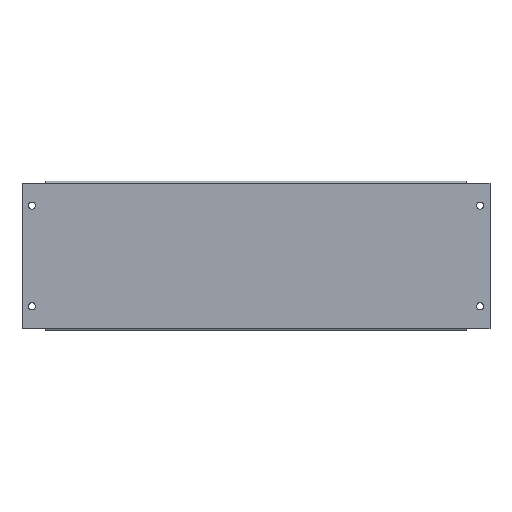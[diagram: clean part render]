
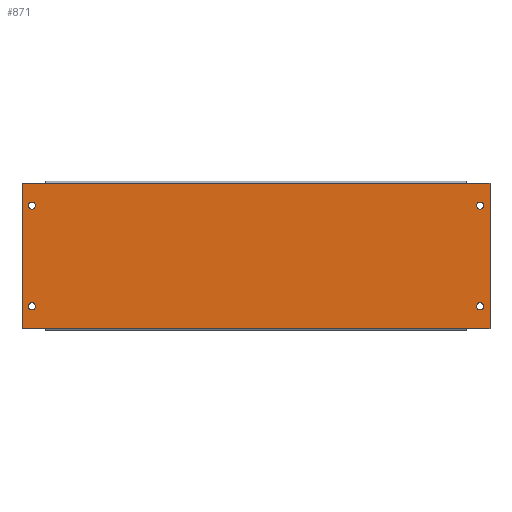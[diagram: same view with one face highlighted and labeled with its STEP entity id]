
A CAD part, top view. The second image highlights one B-rep face of the part: STEP entity #871.
In plain terms, the highlighted planar face has unit normal (0, 0, 1).
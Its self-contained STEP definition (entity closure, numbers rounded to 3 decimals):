
#4 = VECTOR ( 'NONE', #773, 1000. ) ;
#22 = AXIS2_PLACEMENT_3D ( 'NONE', #748, #747, #746 ) ;
#70 = AXIS2_PLACEMENT_3D ( 'NONE', #708, #707, #706 ) ;
#76 = VECTOR ( 'NONE', #690, 1000. ) ;
#81 = VECTOR ( 'NONE', #681, 1000. ) ;
#85 = AXIS2_PLACEMENT_3D ( 'NONE', #659, #658, #657 ) ;
#86 = AXIS2_PLACEMENT_3D ( 'NONE', #662, #661, #660 ) ;
#90 = AXIS2_PLACEMENT_3D ( 'NONE', #637, #615, #614 ) ;
#95 = AXIS2_PLACEMENT_3D ( 'NONE', #643, #642, #641 ) ;
#96 = AXIS2_PLACEMENT_3D ( 'NONE', #640, #639, #638 ) ;
#97 = AXIS2_PLACEMENT_3D ( 'NONE', #613, #609, #608 ) ;
#98 = VECTOR ( 'NONE', #634, 1000. ) ;
#99 = VECTOR ( 'NONE', #631, 1000. ) ;
#100 = VECTOR ( 'NONE', #628, 1000. ) ;
#101 = VECTOR ( 'NONE', #625, 1000. ) ;
#102 = VECTOR ( 'NONE', #622, 1000. ) ;
#139 = CARTESIAN_POINT ( 'NONE',  ( -232.5, -74.5, 1.2 ) ) ;
#147 = PLANE ( 'NONE',  #1042 ) ;
#157 = DIRECTION ( 'NONE',  ( 0., 0., 1. ) ) ;
#160 = DIRECTION ( 'NONE',  ( 1., 0., 0. ) ) ;
#322 = VERTEX_POINT ( 'NONE', #458 ) ;
#326 = VERTEX_POINT ( 'NONE', #459 ) ;
#328 = VERTEX_POINT ( 'NONE', #516 ) ;
#329 = VERTEX_POINT ( 'NONE', #475 ) ;
#337 = VERTEX_POINT ( 'NONE', #446 ) ;
#340 = VERTEX_POINT ( 'NONE', #407 ) ;
#341 = VERTEX_POINT ( 'NONE', #406 ) ;
#342 = VERTEX_POINT ( 'NONE', #400 ) ;
#343 = VERTEX_POINT ( 'NONE', #401 ) ;
#345 = VERTEX_POINT ( 'NONE', #402 ) ;
#346 = VERTEX_POINT ( 'NONE', #403 ) ;
#349 = VERTEX_POINT ( 'NONE', #412 ) ;
#350 = VERTEX_POINT ( 'NONE', #413 ) ;
#351 = VERTEX_POINT ( 'NONE', #414 ) ;
#353 = VERTEX_POINT ( 'NONE', #416 ) ;
#354 = VERTEX_POINT ( 'NONE', #422 ) ;
#400 = CARTESIAN_POINT ( 'NONE',  ( 226.25, 50., 1.2 ) ) ;
#401 = CARTESIAN_POINT ( 'NONE',  ( -232.5, 72.1, 1.2 ) ) ;
#402 = CARTESIAN_POINT ( 'NONE',  ( 232.5, -72.1, 1.2 ) ) ;
#403 = CARTESIAN_POINT ( 'NONE',  ( -232.5, -72.1, 1.2 ) ) ;
#406 = CARTESIAN_POINT ( 'NONE',  ( -226.25, 50., 1.2 ) ) ;
#407 = CARTESIAN_POINT ( 'NONE',  ( -219.25, 50., 1.2 ) ) ;
#412 = CARTESIAN_POINT ( 'NONE',  ( 232.5, 72.1, 1.2 ) ) ;
#413 = CARTESIAN_POINT ( 'NONE',  ( 209.5, -72.1, 1.2 ) ) ;
#414 = CARTESIAN_POINT ( 'NONE',  ( -209.5, -72.1, 1.2 ) ) ;
#416 = CARTESIAN_POINT ( 'NONE',  ( -209.5, 72.1, 1.2 ) ) ;
#422 = CARTESIAN_POINT ( 'NONE',  ( 209.5, 72.1, 1.2 ) ) ;
#439 = EDGE_LOOP ( 'NONE', ( #479, #505, #535, #540, #545, #547, #542, #472 ) ) ;
#445 = EDGE_LOOP ( 'NONE', ( #484, #477 ) ) ;
#446 = CARTESIAN_POINT ( 'NONE',  ( 219.25, 50., 1.2 ) ) ;
#451 = EDGE_LOOP ( 'NONE', ( #471, #541 ) ) ;
#456 = ORIENTED_EDGE ( 'NONE', *, *, #921, .T. ) ;
#458 = CARTESIAN_POINT ( 'NONE',  ( -226.25, -50., 1.2 ) ) ;
#459 = CARTESIAN_POINT ( 'NONE',  ( -219.25, -50., 1.2 ) ) ;
#471 = ORIENTED_EDGE ( 'NONE', *, *, #962, .F. ) ;
#472 = ORIENTED_EDGE ( 'NONE', *, *, #897, .T. ) ;
#475 = CARTESIAN_POINT ( 'NONE',  ( 226.25, -50., 1.2 ) ) ;
#477 = ORIENTED_EDGE ( 'NONE', *, *, #983, .T. ) ;
#478 = ORIENTED_EDGE ( 'NONE', *, *, #949, .F. ) ;
#479 = ORIENTED_EDGE ( 'NONE', *, *, #968, .T. ) ;
#484 = ORIENTED_EDGE ( 'NONE', *, *, #950, .T. ) ;
#505 = ORIENTED_EDGE ( 'NONE', *, *, #966, .T. ) ;
#506 = ORIENTED_EDGE ( 'NONE', *, *, #978, .F. ) ;
#507 = EDGE_LOOP ( 'NONE', ( #456, #508 ) ) ;
#508 = ORIENTED_EDGE ( 'NONE', *, *, #963, .T. ) ;
#516 = CARTESIAN_POINT ( 'NONE',  ( 219.25, -50., 1.2 ) ) ;
#535 = ORIENTED_EDGE ( 'NONE', *, *, #969, .T. ) ;
#540 = ORIENTED_EDGE ( 'NONE', *, *, #965, .T. ) ;
#541 = ORIENTED_EDGE ( 'NONE', *, *, #907, .F. ) ;
#542 = ORIENTED_EDGE ( 'NONE', *, *, #937, .T. ) ;
#545 = ORIENTED_EDGE ( 'NONE', *, *, #930, .T. ) ;
#547 = ORIENTED_EDGE ( 'NONE', *, *, #964, .T. ) ;
#564 = EDGE_LOOP ( 'NONE', ( #506, #478 ) ) ;
#608 = DIRECTION ( 'NONE',  ( 1., 0., 0. ) ) ;
#609 = DIRECTION ( 'NONE',  ( 0., 0., -1. ) ) ;
#613 = CARTESIAN_POINT ( 'NONE',  ( -222.75, -50., 1.2 ) ) ;
#614 = DIRECTION ( 'NONE',  ( 1., 0., 0. ) ) ;
#615 = DIRECTION ( 'NONE',  ( 0., 0., 1. ) ) ;
#622 = DIRECTION ( 'NONE',  ( 1., 0., 0. ) ) ;
#623 = CARTESIAN_POINT ( 'NONE',  ( -209.5, -72.1, 1.2 ) ) ;
#624 = LINE ( 'NONE', #623, #102 ) ;
#625 = DIRECTION ( 'NONE',  ( 0., -1., 0. ) ) ;
#626 = CARTESIAN_POINT ( 'NONE',  ( -232.5, 74.5, 1.2 ) ) ;
#627 = LINE ( 'NONE', #626, #101 ) ;
#628 = DIRECTION ( 'NONE',  ( 1., 0., 0. ) ) ;
#629 = CARTESIAN_POINT ( 'NONE',  ( -232.5, -72.1, 1.2 ) ) ;
#630 = LINE ( 'NONE', #629, #100 ) ;
#631 = DIRECTION ( 'NONE',  ( 1., 0., 0. ) ) ;
#632 = CARTESIAN_POINT ( 'NONE',  ( -232.5, -72.1, 1.2 ) ) ;
#633 = LINE ( 'NONE', #632, #99 ) ;
#634 = DIRECTION ( 'NONE',  ( -1., 0., 0. ) ) ;
#635 = CARTESIAN_POINT ( 'NONE',  ( -232.5, 72.1, 1.2 ) ) ;
#636 = LINE ( 'NONE', #635, #98 ) ;
#637 = CARTESIAN_POINT ( 'NONE',  ( 222.75, -50., 1.2 ) ) ;
#638 = DIRECTION ( 'NONE',  ( 1., 0., 0. ) ) ;
#639 = DIRECTION ( 'NONE',  ( 0., 0., -1. ) ) ;
#640 = CARTESIAN_POINT ( 'NONE',  ( 222.75, 50., 1.2 ) ) ;
#641 = DIRECTION ( 'NONE',  ( 1., 0., 0. ) ) ;
#642 = DIRECTION ( 'NONE',  ( 0., 0., 1. ) ) ;
#643 = CARTESIAN_POINT ( 'NONE',  ( -222.75, 50., 1.2 ) ) ;
#657 = DIRECTION ( 'NONE',  ( 1., 0., 0. ) ) ;
#658 = DIRECTION ( 'NONE',  ( 0., 0., -1. ) ) ;
#659 = CARTESIAN_POINT ( 'NONE',  ( -222.75, -50., 1.2 ) ) ;
#660 = DIRECTION ( 'NONE',  ( 1., 0., 0. ) ) ;
#661 = DIRECTION ( 'NONE',  ( 0., 0., 1. ) ) ;
#662 = CARTESIAN_POINT ( 'NONE',  ( 222.75, -50., 1.2 ) ) ;
#681 = DIRECTION ( 'NONE',  ( -1., 0., 0. ) ) ;
#682 = CARTESIAN_POINT ( 'NONE',  ( 209.5, 72.1, 1.2 ) ) ;
#683 = LINE ( 'NONE', #682, #81 ) ;
#690 = DIRECTION ( 'NONE',  ( 0., 1., 0. ) ) ;
#691 = CARTESIAN_POINT ( 'NONE',  ( 232.5, 74.5, 1.2 ) ) ;
#692 = LINE ( 'NONE', #691, #76 ) ;
#706 = DIRECTION ( 'NONE',  ( 1., 0., 0. ) ) ;
#707 = DIRECTION ( 'NONE',  ( 0., 0., -1. ) ) ;
#708 = CARTESIAN_POINT ( 'NONE',  ( 222.75, 50., 1.2 ) ) ;
#746 = DIRECTION ( 'NONE',  ( 1., 0., 0. ) ) ;
#747 = DIRECTION ( 'NONE',  ( 0., 0., 1. ) ) ;
#748 = CARTESIAN_POINT ( 'NONE',  ( -222.75, 50., 1.2 ) ) ;
#773 = DIRECTION ( 'NONE',  ( -1., 0., 0. ) ) ;
#774 = CARTESIAN_POINT ( 'NONE',  ( -232.5, 72.1, 1.2 ) ) ;
#775 = LINE ( 'NONE', #774, #4 ) ;
#832 = CIRCLE ( 'NONE', #96, 3.5 ) ;
#871 = ADVANCED_FACE ( 'NONE', ( #1054, #1011, #1029, #994, #993 ), #147, .T. ) ;
#891 = CIRCLE ( 'NONE', #95, 3.5 ) ;
#896 = CIRCLE ( 'NONE', #97, 3.5 ) ;
#897 = EDGE_CURVE ( 'NONE', #353, #343, #775, .T. ) ;
#907 = EDGE_CURVE ( 'NONE', #341, #340, #974, .T. ) ;
#921 = EDGE_CURVE ( 'NONE', #342, #337, #972, .T. ) ;
#925 = CIRCLE ( 'NONE', #86, 3.5 ) ;
#930 = EDGE_CURVE ( 'NONE', #345, #349, #692, .T. ) ;
#937 = EDGE_CURVE ( 'NONE', #354, #353, #683, .T. ) ;
#949 = EDGE_CURVE ( 'NONE', #328, #329, #925, .T. ) ;
#950 = EDGE_CURVE ( 'NONE', #326, #322, #971, .T. ) ;
#962 = EDGE_CURVE ( 'NONE', #340, #341, #891, .T. ) ;
#963 = EDGE_CURVE ( 'NONE', #337, #342, #832, .T. ) ;
#964 = EDGE_CURVE ( 'NONE', #349, #354, #636, .T. ) ;
#965 = EDGE_CURVE ( 'NONE', #350, #345, #633, .T. ) ;
#966 = EDGE_CURVE ( 'NONE', #346, #351, #630, .T. ) ;
#968 = EDGE_CURVE ( 'NONE', #343, #346, #627, .T. ) ;
#969 = EDGE_CURVE ( 'NONE', #351, #350, #624, .T. ) ;
#971 = CIRCLE ( 'NONE', #85, 3.5 ) ;
#972 = CIRCLE ( 'NONE', #70, 3.5 ) ;
#974 = CIRCLE ( 'NONE', #22, 3.5 ) ;
#978 = EDGE_CURVE ( 'NONE', #329, #328, #986, .T. ) ;
#983 = EDGE_CURVE ( 'NONE', #322, #326, #896, .T. ) ;
#986 = CIRCLE ( 'NONE', #90, 3.5 ) ;
#993 = FACE_BOUND ( 'NONE', #445, .T. ) ;
#994 = FACE_OUTER_BOUND ( 'NONE', #439, .T. ) ;
#1011 = FACE_BOUND ( 'NONE', #507, .T. ) ;
#1029 = FACE_BOUND ( 'NONE', #451, .T. ) ;
#1042 = AXIS2_PLACEMENT_3D ( 'NONE', #139, #157, #160 ) ;
#1054 = FACE_BOUND ( 'NONE', #564, .T. ) ;
